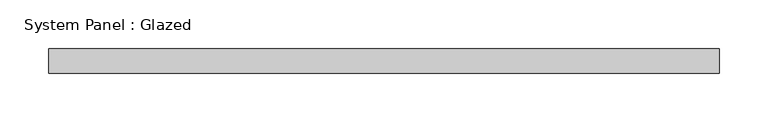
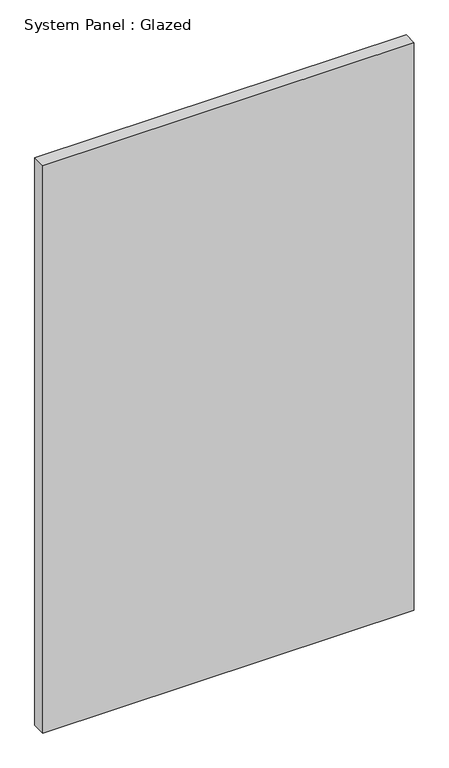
"""IFC4 building model written with IfcOpenShell, lengths in millimetres: plate geometry, System Panel : Glazed."""

from ifc_helpers import new_model, si_unit, origin, origin_with_axes, place, context, project, spatial, polyline, outline, extrude, source, transform, mapped, element, save


def system_panel_glazed_7adb5765(model_context):
    return source(origin(), model_context, "Body", "SweptSolid", [
        extrude(outline(polyline([(344.4767138, 24.5), (-344.4767138, 24.5), (-344.4767138, 49.5), (344.4767138, 49.5), (344.4767138, 24.5)])), origin_with_axes(), (0.0, 0.0, 1.0), 1112.0),
    ])


if __name__ == "__main__":
    model = new_model("IFC4")
    model_context = context("Model", 3, world=origin())
    ifc_project = project(units=[si_unit("LENGTHUNIT", "METRE", prefix="MILLI")], contexts=[model_context])
    site = spatial("IfcSite", under=ifc_project)
    building = spatial("IfcBuilding", under=site)
    placement = place(None, origin())
    system_panel_glazed_shape = system_panel_glazed_7adb5765(model_context)
    element("IfcPlate", 1, ObjectType="System Panel : Glazed", at=placement, inside=building, context=model_context, shape_type="MappedRepresentation", body=[
        mapped(system_panel_glazed_shape, transform((0.0, 0.0, 0.0), x_axis=(1.0, 0.0, 0.0), y_axis=(0.0, 1.0, 0.0), z_axis=(0.0, 0.0, 1.0))),
    ])
    save(model, "model.ifc")
